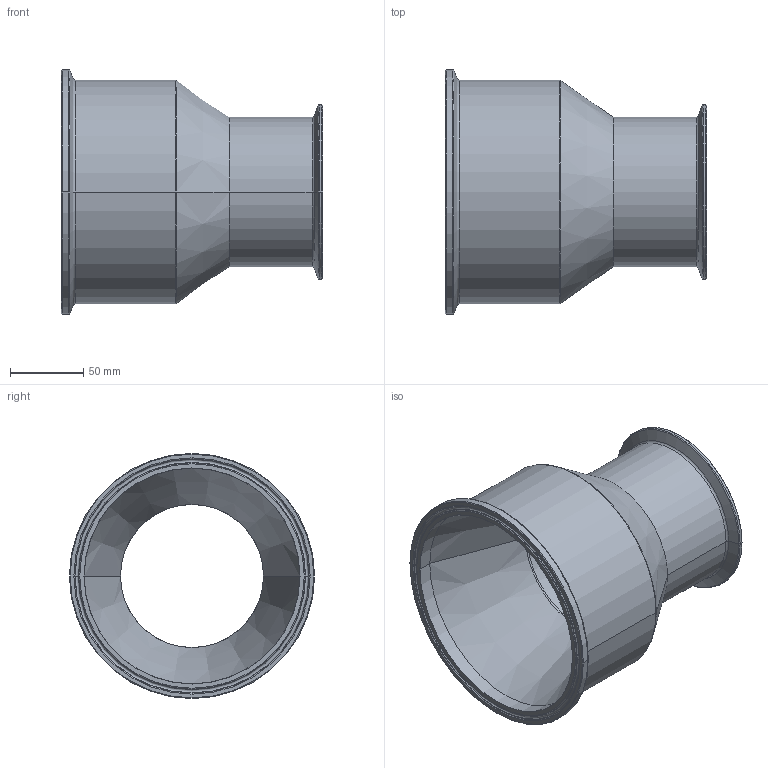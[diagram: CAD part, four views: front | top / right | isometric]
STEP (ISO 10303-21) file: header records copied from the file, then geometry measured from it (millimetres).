
FILE_DESCRIPTION (( 'STEP AP214' ), '1' );
FILE_NAME ('TEG31SCC6I6.0x4.0.STEP', '2016-05-29T14:49:06', ( 'eran' ), ( '' ), 'SwSTEP 2.0', 'SolidWorks 2016', '' );
FILE_SCHEMA (( 'AUTOMOTIVE_DESIGN' ));
Length unit declared in the file: millimetre
Products named in the file (1): TEG31SCC6I6.0x4.0
Bounding box: 177.8 x 166.9 x 166.9 mm (x, y, z)
Volume: 722728 mm3; surface area: 152538.5 mm2
Topology: 1 solids, 1 shells, 64 faces, 128 edges, 68 vertices
Faces by surface type: cone 24, torus 24, cylinder 12, plane 4
Entity records: 1686 total; most frequent: DIRECTION 350, CARTESIAN_POINT 261, ORIENTED_EDGE 256, AXIS2_PLACEMENT_3D 157, EDGE_CURVE 128, CIRCLE 92, EDGE_LOOP 68, VERTEX_POINT 68
